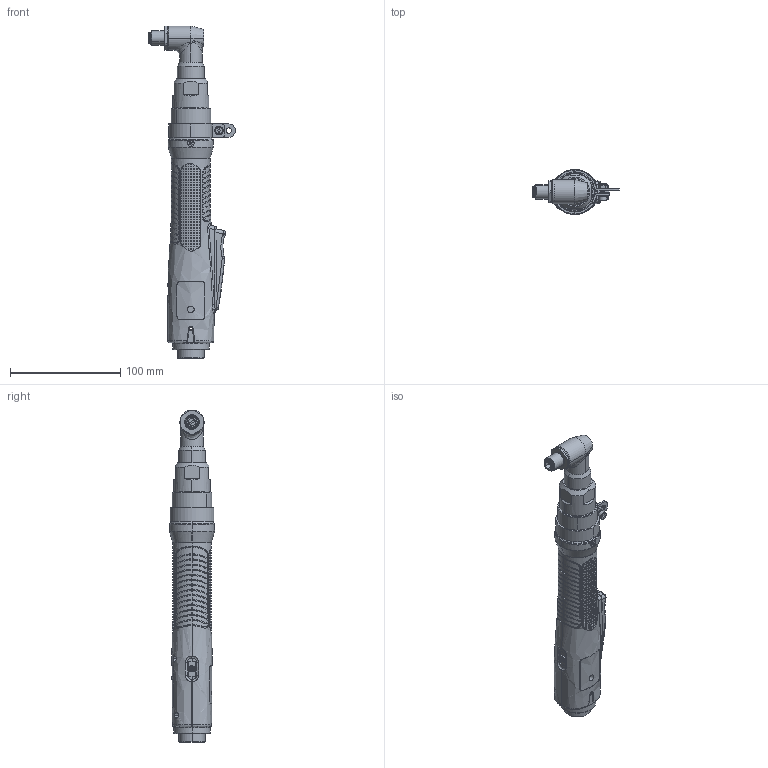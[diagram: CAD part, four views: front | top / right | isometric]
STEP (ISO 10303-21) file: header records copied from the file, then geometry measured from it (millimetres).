
FILE_DESCRIPTION (( 'STEP AP203' ), '1' );
FILE_NAME ('MDTH2604,2611,2616,2628-A.STEP', '2021-10-22T05:23:11', ( '' ), ( '' ), 'SwSTEP 2.0', 'SolidWorks 2020', '' );
FILE_SCHEMA (( 'CONFIG_CONTROL_DESIGN' ));
Length unit declared in the file: millimetre
Products named in the file (1): MDTH2604,2611,2616,2628-A
Bounding box: 78.8 x 40.98 x 300.91 mm (x, y, z)
Surface area: 52444 mm2 (no closed solid volume)
Topology: 0 solids, 39 shells, 2427 faces, 6998 edges, 4824 vertices
Faces by surface type: plane 1546, bspline 489, cylinder 310, cone 51, torus 31
Entity records: 120858 total; most frequent: CARTESIAN_POINT 67065, ORIENTED_EDGE 12481, DIRECTION 7375, EDGE_CURVE 6994, VERTEX_POINT 4824, B_SPLINE_CURVE_WITH_KNOTS 3877, EDGE_LOOP 2783, AXIS2_PLACEMENT_3D 2508
